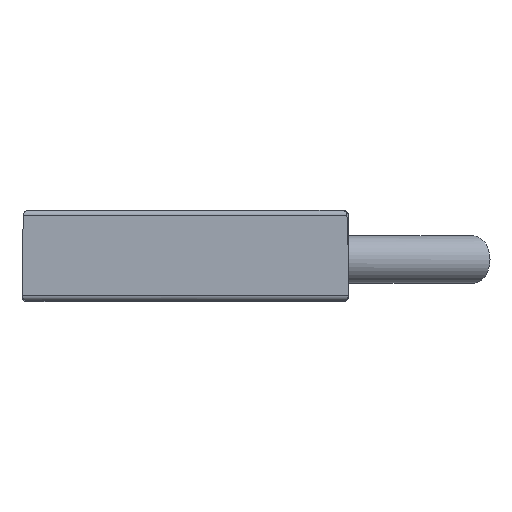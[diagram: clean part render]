
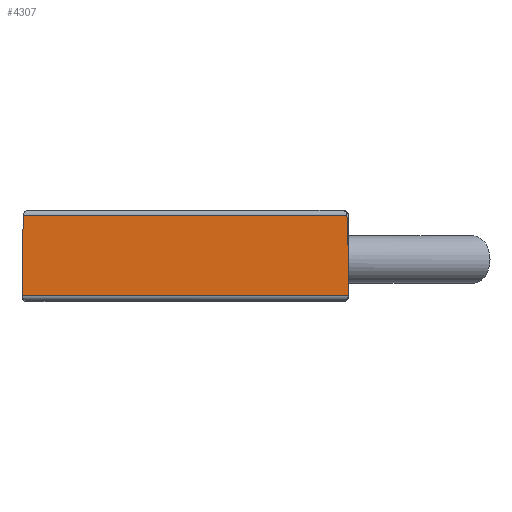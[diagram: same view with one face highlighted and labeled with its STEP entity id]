
A CAD part, top view. The second image highlights one B-rep face of the part: STEP entity #4307.
In plain terms, the highlighted planar face has unit normal (0, 0, 1).
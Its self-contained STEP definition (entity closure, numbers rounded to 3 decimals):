
#66 = VERTEX_POINT ( 'NONE', #4833 ) ;
#142 = AXIS2_PLACEMENT_3D ( 'NONE', #663, #3159, #3231 ) ;
#297 = PLANE ( 'NONE',  #142 ) ;
#495 = VECTOR ( 'NONE', #3226, 1000. ) ;
#542 = CARTESIAN_POINT ( 'NONE',  ( 10., 0., 50. ) ) ;
#663 = CARTESIAN_POINT ( 'NONE',  ( -9.7, -2.3, 50. ) ) ;
#852 = ORIENTED_EDGE ( 'NONE', *, *, #5056, .F. ) ;
#931 = VERTEX_POINT ( 'NONE', #5229 ) ;
#958 = CARTESIAN_POINT ( 'NONE',  ( -10., -2.3, 50. ) ) ;
#960 = EDGE_CURVE ( 'NONE', #3925, #1346, #5217, .T. ) ;
#1021 = FACE_OUTER_BOUND ( 'NONE', #5129, .T. ) ;
#1188 = DIRECTION ( 'NONE',  ( 1., 0., 0. ) ) ;
#1265 = LINE ( 'NONE', #2018, #495 ) ;
#1315 = ORIENTED_EDGE ( 'NONE', *, *, #1347, .T. ) ;
#1344 = LINE ( 'NONE', #958, #2199 ) ;
#1346 = VERTEX_POINT ( 'NONE', #542 ) ;
#1347 = EDGE_CURVE ( 'NONE', #66, #2741, #1344, .T. ) ;
#1546 = DIRECTION ( 'NONE',  ( 0., 1., 0. ) ) ;
#1555 = DIRECTION ( 'NONE',  ( -0.035, -0.999, 0. ) ) ;
#1719 = EDGE_CURVE ( 'NONE', #3810, #66, #4210, .T. ) ;
#1897 = CARTESIAN_POINT ( 'NONE',  ( 10., -2.3, 50. ) ) ;
#1912 = ORIENTED_EDGE ( 'NONE', *, *, #4942, .T. ) ;
#2017 = VECTOR ( 'NONE', #1555, 1000. ) ;
#2018 = CARTESIAN_POINT ( 'NONE',  ( 10., 2.63, 50. ) ) ;
#2199 = VECTOR ( 'NONE', #2620, 1000. ) ;
#2489 = CARTESIAN_POINT ( 'NONE',  ( -9.7, -2.3, 50. ) ) ;
#2620 = DIRECTION ( 'NONE',  ( 0., -1., 0. ) ) ;
#2741 = VERTEX_POINT ( 'NONE', #4263 ) ;
#2954 = LINE ( 'NONE', #2489, #4320 ) ;
#3081 = ORIENTED_EDGE ( 'NONE', *, *, #1719, .T. ) ;
#3159 = DIRECTION ( 'NONE',  ( 0., 0., 1. ) ) ;
#3226 = DIRECTION ( 'NONE',  ( 1., 0., 0. ) ) ;
#3231 = DIRECTION ( 'NONE',  ( 1., 0., 0. ) ) ;
#3337 = VECTOR ( 'NONE', #1546, 1000. ) ;
#3442 = CARTESIAN_POINT ( 'NONE',  ( 10., -2.3, 50. ) ) ;
#3523 = LINE ( 'NONE', #4769, #4693 ) ;
#3801 = ORIENTED_EDGE ( 'NONE', *, *, #960, .T. ) ;
#3810 = VERTEX_POINT ( 'NONE', #4227 ) ;
#3817 = ORIENTED_EDGE ( 'NONE', *, *, #5097, .T. ) ;
#3925 = VERTEX_POINT ( 'NONE', #3442 ) ;
#4210 = LINE ( 'NONE', #5280, #2017 ) ;
#4227 = CARTESIAN_POINT ( 'NONE',  ( -9.908, 2.63, 50. ) ) ;
#4263 = CARTESIAN_POINT ( 'NONE',  ( -10., -2.3, 50. ) ) ;
#4307 = ADVANCED_FACE ( 'NONE', ( #1021 ), #297, .T. ) ;
#4320 = VECTOR ( 'NONE', #1188, 1000. ) ;
#4693 = VECTOR ( 'NONE', #5332, 1000. ) ;
#4769 = CARTESIAN_POINT ( 'NONE',  ( 10., 0., 50. ) ) ;
#4833 = CARTESIAN_POINT ( 'NONE',  ( -10., 0., 50. ) ) ;
#4942 = EDGE_CURVE ( 'NONE', #2741, #3925, #2954, .T. ) ;
#5056 = EDGE_CURVE ( 'NONE', #3810, #931, #1265, .T. ) ;
#5097 = EDGE_CURVE ( 'NONE', #1346, #931, #3523, .T. ) ;
#5129 = EDGE_LOOP ( 'NONE', ( #3801, #3817, #852, #3081, #1315, #1912 ) ) ;
#5217 = LINE ( 'NONE', #1897, #3337 ) ;
#5229 = CARTESIAN_POINT ( 'NONE',  ( 9.908, 2.63, 50. ) ) ;
#5280 = CARTESIAN_POINT ( 'NONE',  ( -9.908, 2.64, 50. ) ) ;
#5332 = DIRECTION ( 'NONE',  ( -0.035, 0.999, 0. ) ) ;
